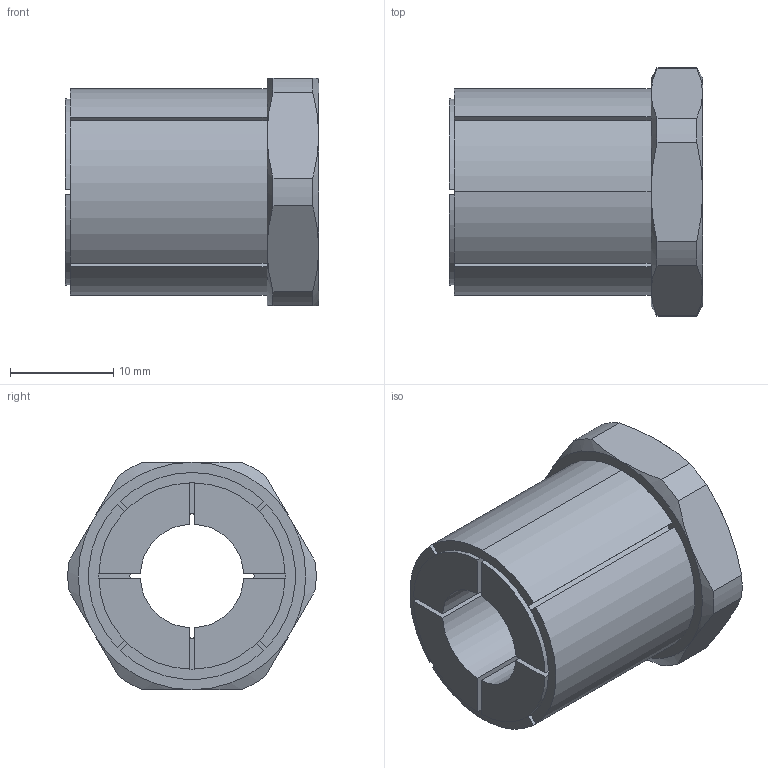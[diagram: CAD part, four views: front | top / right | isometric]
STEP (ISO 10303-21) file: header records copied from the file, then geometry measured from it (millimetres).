
FILE_DESCRIPTION (( 'STEP AP203' ), '1' );
FILE_NAME ('KBS 58 - 10 x 20.STEP', '2015-07-05T19:49:12', ( '' ), ( '' ), 'SwSTEP 2.0', 'SolidWorks 2010', '' );
FILE_SCHEMA (( 'CONFIG_CONTROL_DESIGN' ));
Length unit declared in the file: millimetre
Products named in the file (1): KBS 58 - 10 x 20
Bounding box: 24.5 x 23.98 x 22 mm (x, y, z)
Volume: 5977.5 mm3; surface area: 3918.9 mm2
Topology: 1 solids, 1 shells, 79 faces, 208 edges, 132 vertices
Faces by surface type: plane 37, cylinder 26, cone 16
Entity records: 2651 total; most frequent: CARTESIAN_POINT 612, ORIENTED_EDGE 416, DIRECTION 416, EDGE_CURVE 208, AXIS2_PLACEMENT_3D 160, VERTEX_POINT 132, VECTOR 96, LINE 96
